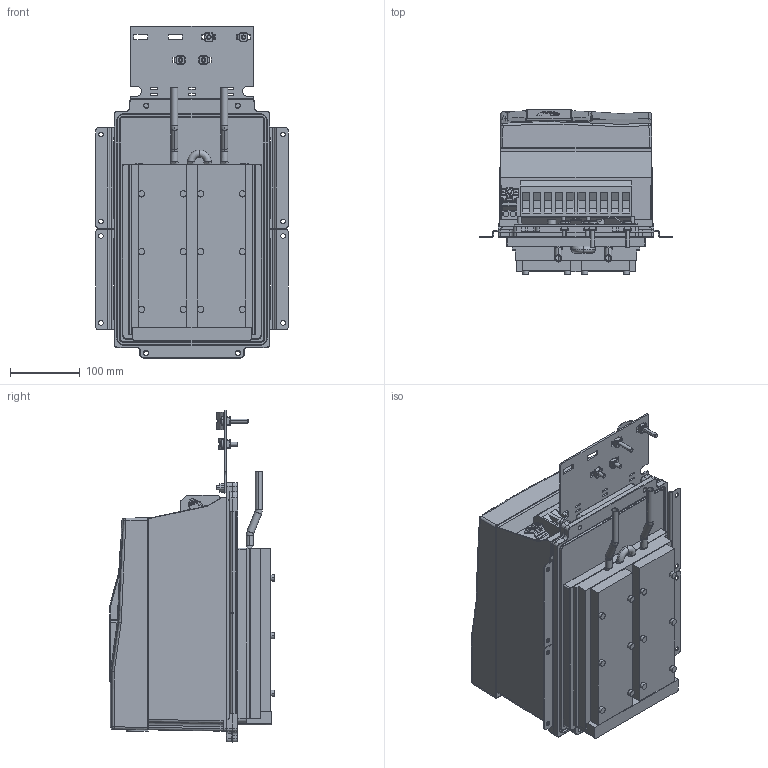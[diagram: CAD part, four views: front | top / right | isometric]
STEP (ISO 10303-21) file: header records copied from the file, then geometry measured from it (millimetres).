
FILE_DESCRIPTION (( 'STEP AP214' ), '1' );
FILE_NAME ('F6-4TW5-K001.STEP', '2020-12-10T08:00:54', ( '' ), ( '' ), 'SwSTEP 2.0', 'SolidWorks 2019', '' );
FILE_SCHEMA (( 'AUTOMOTIVE_DESIGN' ));
Length unit declared in the file: millimetre
Products named in the file (13): 10035735_000_Kundenmodell; 10032600_000_Kundenmodell; 10059764_000_Blindabdeckung (Kundenmodell); 10058413_000; 10059765_000; 10044453_000_Schirmung (Kundenmodell); 10063070_000; 10061644_000_Deckel (Kundenmodell); 10045826_000_Basis Leistungsteil + Zubeh”r TW5 (Kundenmodell); 10058448_000; F6-4TW5-K001; 10061645_000; 10061789_000
Assembly tree (12 placements, depth 4):
  F6-4TW5-K001
    10045826_000_Basis Leistungsteil + Zubeh”r TW5 (Kundenmodell)
      10061789_000
    10032600_000_Kundenmodell
      10061644_000_Deckel (Kundenmodell)
        10061645_000
      10058448_000
    10035735_000_Kundenmodell
      10059764_000_Blindabdeckung (Kundenmodell)
        10059765_000
      10058413_000
    10044453_000_Schirmung (Kundenmodell)
      10063070_000
Bounding box: 277 x 237.2 x 477.5 mm (x, y, z)
Volume: 14624991.3 mm3; surface area: 932355.4 mm2
Topology: 17 solids, 36 shells, 3489 faces, 9339 edges, 5959 vertices
Faces by surface type: plane 1558, cylinder 1018, bspline 555, torus 186, cone 124, sphere 48
Entity records: 132819 total; most frequent: CARTESIAN_POINT 48374, ORIENTED_EDGE 18560, DIRECTION 16064, EDGE_CURVE 9280, VERTEX_POINT 5957, AXIS2_PLACEMENT_3D 5464, LINE 5136, VECTOR 5136
